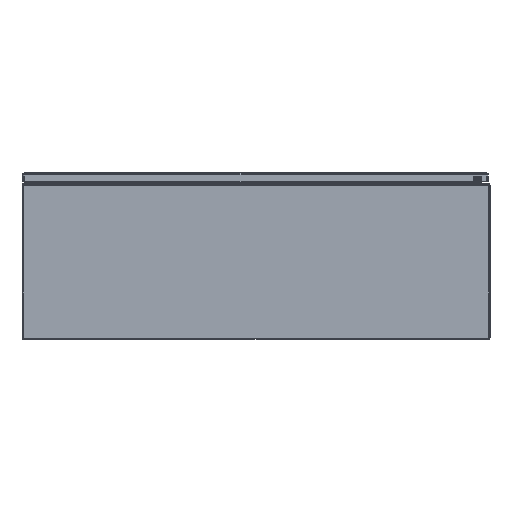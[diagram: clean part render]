
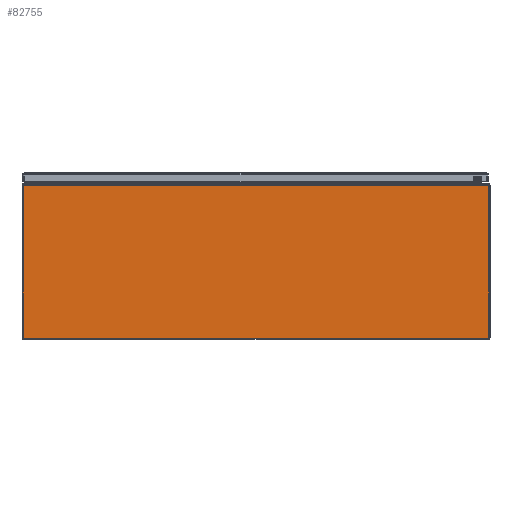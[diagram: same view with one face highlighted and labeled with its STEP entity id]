
A CAD part, front view. The second image highlights one B-rep face of the part: STEP entity #82755.
In plain terms, the highlighted planar face has unit normal (0, -1, 0).
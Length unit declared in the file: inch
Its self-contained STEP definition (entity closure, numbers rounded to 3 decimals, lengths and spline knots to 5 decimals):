
#6310 = CARTESIAN_POINT ( 'NONE',  ( 18., 0., 0.08 ) ) ;
#6311 = PLANE ( 'NONE',  #65064 ) ;
#6313 = DIRECTION ( 'NONE',  ( 0., -1., 0. ) ) ;
#6314 = DIRECTION ( 'NONE',  ( 0., 0., -1. ) ) ;
#7016 = FACE_OUTER_BOUND ( 'NONE', #64907, .T. ) ;
#7718 = VERTEX_POINT ( 'NONE', #74244 ) ;
#7719 = VERTEX_POINT ( 'NONE', #74245 ) ;
#7720 = VERTEX_POINT ( 'NONE', #74246 ) ;
#7721 = VERTEX_POINT ( 'NONE', #74247 ) ;
#8397 = CARTESIAN_POINT ( 'NONE',  ( 18., 0., 11.838 ) ) ;
#8399 = DIRECTION ( 'NONE',  ( -1., 0., 0. ) ) ;
#8402 = CARTESIAN_POINT ( 'NONE',  ( -17.921, 0., 12.569 ) ) ;
#8413 = CARTESIAN_POINT ( 'NONE',  ( 17.921, 0., 0.08 ) ) ;
#8416 = DIRECTION ( 'NONE',  ( 0., 0., -1. ) ) ;
#8419 = CARTESIAN_POINT ( 'NONE',  ( 18., 0., 0.08 ) ) ;
#8421 = DIRECTION ( 'NONE',  ( -1., 0., 0. ) ) ;
#8423 = DIRECTION ( 'NONE',  ( 0., 0., -1. ) ) ;
#10380 = LINE ( 'NONE', #8397, #10393 ) ;
#10389 = VECTOR ( 'NONE', #8416, 39.37008 ) ;
#10393 = VECTOR ( 'NONE', #8399, 39.37008 ) ;
#10395 = LINE ( 'NONE', #8402, #10404 ) ;
#10397 = LINE ( 'NONE', #8413, #10389 ) ;
#10400 = LINE ( 'NONE', #8419, #10402 ) ;
#10402 = VECTOR ( 'NONE', #8421, 39.37008 ) ;
#10404 = VECTOR ( 'NONE', #8423, 39.37008 ) ;
#64907 = EDGE_LOOP ( 'NONE', ( #80188, #80189, #80190, #80191 ) ) ;
#65064 = AXIS2_PLACEMENT_3D ( 'NONE', #6310, #6313, #6314 ) ;
#74244 = CARTESIAN_POINT ( 'NONE',  ( -17.921, 0., 0.08 ) ) ;
#74245 = CARTESIAN_POINT ( 'NONE',  ( 17.921, 0., 0.08 ) ) ;
#74246 = CARTESIAN_POINT ( 'NONE',  ( -17.921, 0., 11.838 ) ) ;
#74247 = CARTESIAN_POINT ( 'NONE',  ( 17.921, 0., 11.838 ) ) ;
#80188 = ORIENTED_EDGE ( 'NONE', *, *, #82496, .F. ) ;
#80189 = ORIENTED_EDGE ( 'NONE', *, *, #82495, .F. ) ;
#80190 = ORIENTED_EDGE ( 'NONE', *, *, #82493, .T. ) ;
#80191 = ORIENTED_EDGE ( 'NONE', *, *, #82497, .T. ) ;
#82493 = EDGE_CURVE ( 'NONE', #7721, #7720, #10380, .T. ) ;
#82495 = EDGE_CURVE ( 'NONE', #7721, #7719, #10397, .T. ) ;
#82496 = EDGE_CURVE ( 'NONE', #7719, #7718, #10400, .T. ) ;
#82497 = EDGE_CURVE ( 'NONE', #7720, #7718, #10395, .T. ) ;
#82755 = ADVANCED_FACE ( 'NONE', ( #7016 ), #6311, .T. ) ;
